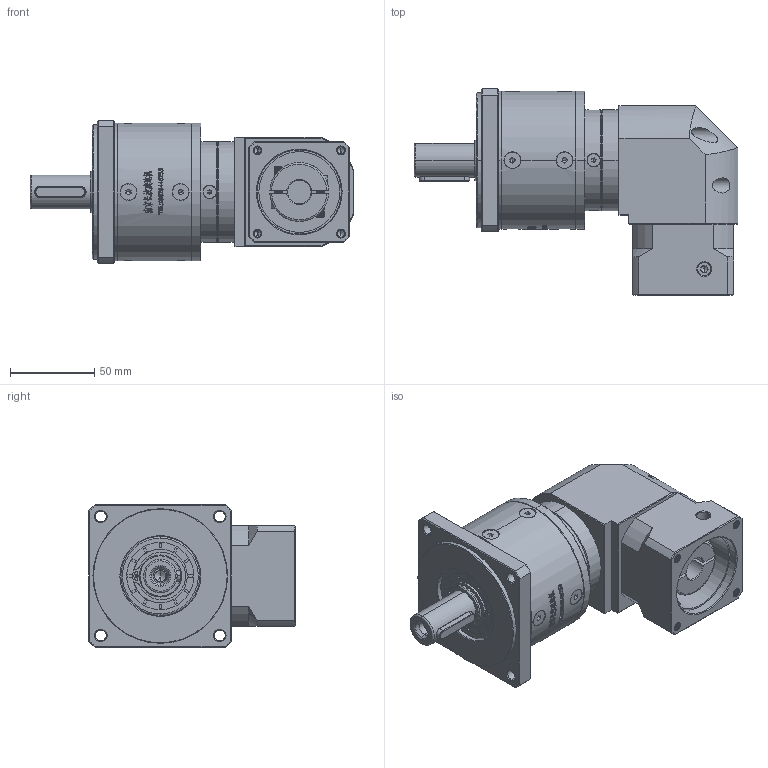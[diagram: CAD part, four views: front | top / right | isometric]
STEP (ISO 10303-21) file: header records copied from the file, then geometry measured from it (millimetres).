
FILE_DESCRIPTION (( 'STEP AP214' ), '1' );
FILE_NAME ('ZFR80-D20-L2-14-50-70-M5.step', '2022-05-08T14:49:08', ( '' ), ( 'Microsoft' ), 'SwSTEP 2.0', 'SolidWorks 2016', '' );
FILE_SCHEMA (( 'AUTOMOTIVE_DESIGN' ));
Length unit declared in the file: millimetre
Products named in the file (1): ZFR80-D20-L2-14-50-70-M5
Bounding box: 192.5 x 122.7 x 85 mm (x, y, z)
Volume: 784554.5 mm3; surface area: 102747.6 mm2
Topology: 17 solids, 18 shells, 3078 faces, 8181 edges, 5260 vertices
Faces by surface type: plane 1601, bspline 620, cylinder 468, cone 381, torus 8
Entity records: 165842 total; most frequent: CARTESIAN_POINT 60907, ORIENTED_EDGE 16270, DIRECTION 12347, EDGE_CURVE 8135, VERTEX_POINT 5260, VECTOR 4989, LINE 4989, AXIS2_PLACEMENT_3D 3679
